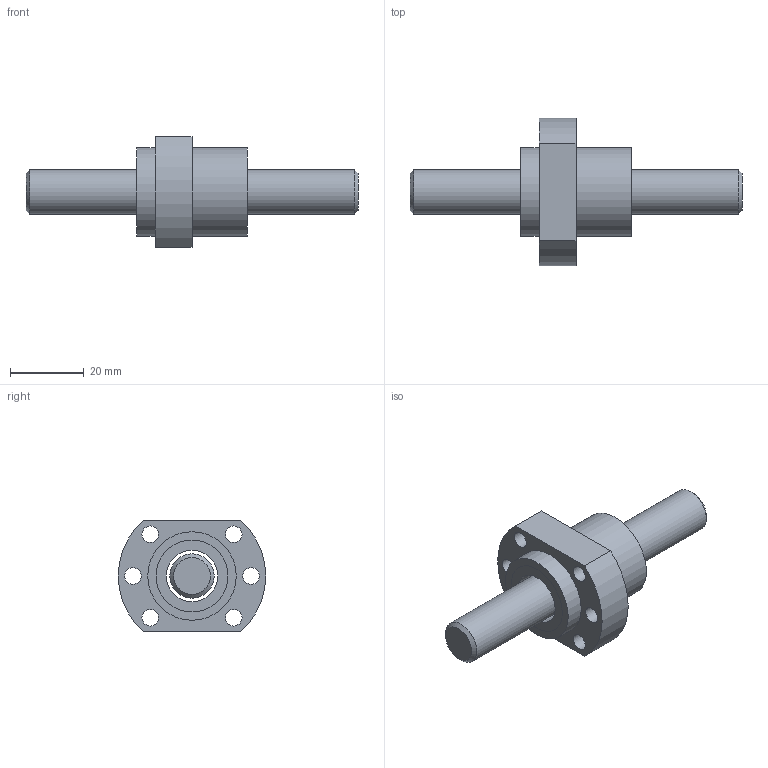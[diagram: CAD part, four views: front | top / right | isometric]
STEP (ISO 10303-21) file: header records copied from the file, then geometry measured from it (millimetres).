
FILE_DESCRIPTION (( 'STEP AP203' ), '1' );
FILE_NAME ('SFH1205-2.8.STEP', '2023-08-16T08:54:21', ( '' ), ( '' ), 'SwSTEP 2.0', 'SolidWorks 2022', '' );
FILE_SCHEMA (( 'CONFIG_CONTROL_DESIGN' ));
Length unit declared in the file: millimetre
Products named in the file (1): SFH1205-2.8
Bounding box: 90 x 40 x 30 mm (x, y, z)
Volume: 24371.7 mm3; surface area: 12708 mm2
Topology: 4 solids, 4 shells, 50 faces, 90 edges, 60 vertices
Faces by surface type: cylinder 26, plane 22, cone 2
Full cylindrical faces by diameter (mm): 4.5 x6, 12 x1, 14 x3, 16 x4, 19.5 x4, 21 x4, 24 x2
Entity records: 1207 total; most frequent: DIRECTION 218, CARTESIAN_POINT 171, ORIENTED_EDGE 124, EDGE_LOOP 106, AXIS2_PLACEMENT_3D 105, FACE_OUTER_BOUND 74, EDGE_CURVE 62, VERTEX_POINT 58
